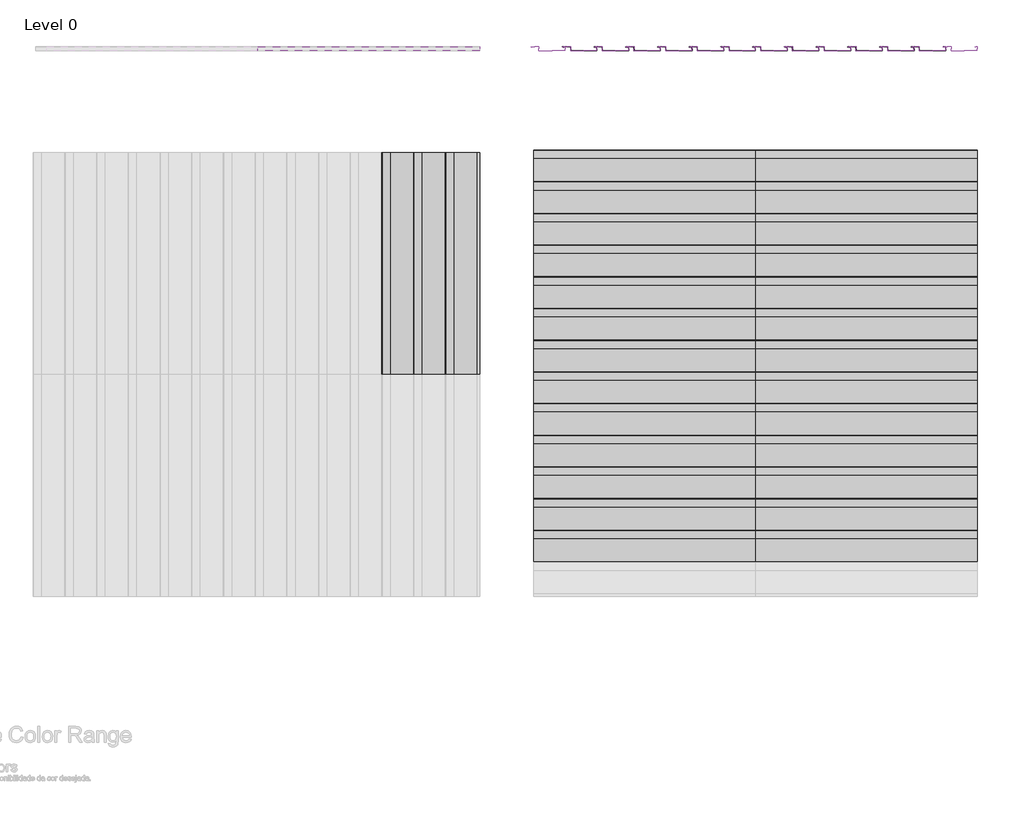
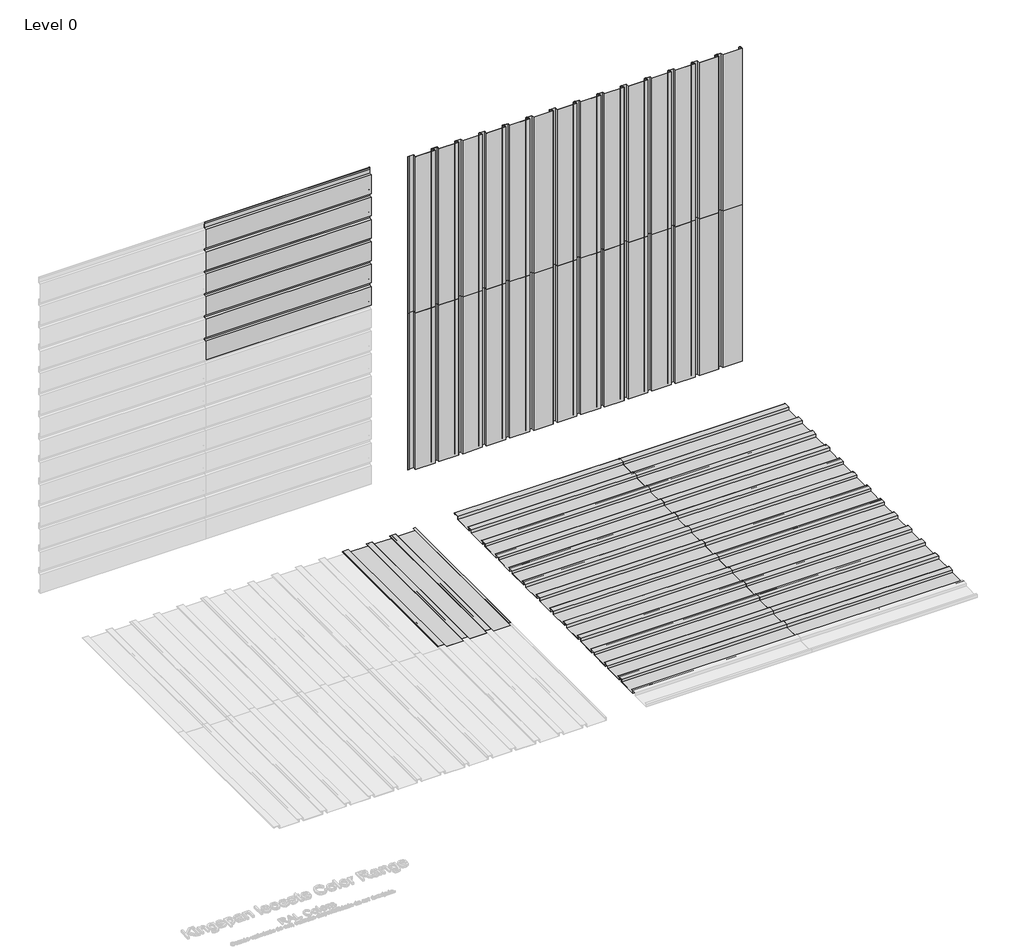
# One storey, part 2 of 2: 63 proxies.
"""IFC4 building model written with IfcOpenShell, lengths in millimetres."""

from ifc_helpers import new_model, si_unit, origin, place, context, project, spatial, transform, mapped, element, save
from components import mx8_0_standard_panel_ns_97240bc2, mx8_0_standard_panel_ns_d4d0994c

model = new_model("IFC4")

# Units and contexts
model_context = context("Model", 3, world=origin())
ifc_project = project(units=[si_unit("LENGTHUNIT", "METRE", prefix="MILLI")], contexts=[model_context])

# Site, building, storey
site = spatial("IfcSite", under=ifc_project)
building = spatial("IfcBuilding", under=site)
storey = spatial("IfcBuildingStorey", under=building, Name="Level 0", Elevation=0.0)

# Proxies
placement = place(None, origin())
mx8_0_standard_panel_ns_shape = mx8_0_standard_panel_ns_97240bc2(model_context)
element("IfcBuildingElementProxy", 1, Name="MX8.0 : Standard Panel_NS", ObjectType="MX8.0 : Standard Panel_NS", at=placement, inside=storey, context=model_context, shape_type="MappedRepresentation", body=[
    mapped(mx8_0_standard_panel_ns_shape, transform((1589.7088666, 5063.0274074, 0.0), x_axis=(0.0, 0.0, 1.0), y_axis=(-1.0, 0.0, 0.0), z_axis=(0.0, -1.0, 0.0))),
])
element("IfcBuildingElementProxy", 2, Name="MX8.0 : Standard Panel_NS", ObjectType="MX8.0 : Standard Panel_NS", at=placement, inside=storey, context=model_context, shape_type="MappedRepresentation", body=[
    mapped(mx8_0_standard_panel_ns_shape, transform((1589.7088666, 5063.0274074, 2100.0), x_axis=(0.0, 0.0, 1.0), y_axis=(-1.0, 0.0, 0.0), z_axis=(0.0, -1.0, 0.0))),
])
element("IfcBuildingElementProxy", 3, Name="MX8.0 : Standard Panel_NS", ObjectType="MX8.0 : Standard Panel_NS", at=placement, inside=storey, context=model_context, shape_type="MappedRepresentation", body=[
    mapped(mx8_0_standard_panel_ns_shape, transform((-1317.7637295, 5063.0274074, 3900.0), x_axis=(1.0, 0.0, 0.0), y_axis=(0.0, 0.0, 1.0), z_axis=(0.0, -1.0, 0.0))),
])
element("IfcBuildingElementProxy", 4, Name="MX8.0 : Standard Panel_NS", ObjectType="MX8.0 : Standard Panel_NS", at=placement, inside=storey, context=model_context, shape_type="MappedRepresentation", body=[
    mapped(mx8_0_standard_panel_ns_shape, transform((3989.7088665, 5063.0274074, 0.0), x_axis=(0.0, 0.0, 1.0), y_axis=(-1.0, 0.0, 0.0), z_axis=(0.0, -1.0, 0.0))),
])
element("IfcBuildingElementProxy", 5, Name="MX8.0 : Standard Panel_NS", ObjectType="MX8.0 : Standard Panel_NS", at=placement, inside=storey, context=model_context, shape_type="MappedRepresentation", body=[
    mapped(mx8_0_standard_panel_ns_shape, transform((3989.7088665, 5063.0274074, 2100.0), x_axis=(0.0, 0.0, 1.0), y_axis=(-1.0, 0.0, 0.0), z_axis=(0.0, -1.0, 0.0))),
])
mx8_0_standard_panel_ns_2_shape = mx8_0_standard_panel_ns_d4d0994c(model_context)
element("IfcBuildingElementProxy", 6, Name="MX8.0 : Standard Panel_NS", ObjectType="MX8.0 : Standard Panel_NS", at=placement, inside=storey, context=model_context, shape_type="MappedRepresentation", body=[
    mapped(mx8_0_standard_panel_ns_2_shape, transform((1289.7088668, 1358.3113453, 0.0), x_axis=(1.0, 0.0, 0.0), y_axis=(0.0, 1.0, 0.0), z_axis=(0.0, 0.0, 1.0))),
])
element("IfcBuildingElementProxy", 7, Name="MX8.0 : Standard Panel_NS", ObjectType="MX8.0 : Standard Panel_NS", at=placement, inside=storey, context=model_context, shape_type="MappedRepresentation", body=[
    mapped(mx8_0_standard_panel_ns_2_shape, transform((1289.7088668, 3758.3113453, 0.0), x_axis=(1.0, 0.0, 0.0), y_axis=(0.0, 1.0, 0.0), z_axis=(0.0, 0.0, 1.0))),
])
element("IfcBuildingElementProxy", 8, Name="MX8.0 : Standard Panel_NS", ObjectType="MX8.0 : Standard Panel_NS", at=placement, inside=storey, context=model_context, shape_type="MappedRepresentation", body=[
    mapped(mx8_0_standard_panel_ns_2_shape, transform((3389.7088668, 1358.3113453, 0.0), x_axis=(1.0, 0.0, 0.0), y_axis=(0.0, 1.0, 0.0), z_axis=(0.0, 0.0, 1.0))),
])
element("IfcBuildingElementProxy", 9, Name="MX8.0 : Standard Panel_NS", ObjectType="MX8.0 : Standard Panel_NS", at=placement, inside=storey, context=model_context, shape_type="MappedRepresentation", body=[
    mapped(mx8_0_standard_panel_ns_2_shape, transform((3389.7088668, 3758.3113453, 0.0), x_axis=(1.0, 0.0, 0.0), y_axis=(0.0, 1.0, 0.0), z_axis=(0.0, 0.0, 1.0))),
])
element("IfcBuildingElementProxy", 10, Name="MX8.0 : Standard Panel_NS", ObjectType="MX8.0 : Standard Panel_NS", at=placement, inside=storey, context=model_context, shape_type="MappedRepresentation", body=[
    mapped(mx8_0_standard_panel_ns_shape, transform((3089.7088665, 5063.0274074, 0.0), x_axis=(0.0, 0.0, 1.0), y_axis=(-1.0, 0.0, 0.0), z_axis=(0.0, -1.0, 0.0))),
])
element("IfcBuildingElementProxy", 11, Name="MX8.0 : Standard Panel_NS", ObjectType="MX8.0 : Standard Panel_NS", at=placement, inside=storey, context=model_context, shape_type="MappedRepresentation", body=[
    mapped(mx8_0_standard_panel_ns_shape, transform((3089.7088665, 5063.0274074, 2100.0), x_axis=(0.0, 0.0, 1.0), y_axis=(-1.0, 0.0, 0.0), z_axis=(0.0, -1.0, 0.0))),
])
element("IfcBuildingElementProxy", 12, Name="MX8.0 : Standard Panel_NS", ObjectType="MX8.0 : Standard Panel_NS", at=placement, inside=storey, context=model_context, shape_type="MappedRepresentation", body=[
    mapped(mx8_0_standard_panel_ns_shape, transform((-1317.7637295, 5063.0274074, 2400.0), x_axis=(1.0, 0.0, 0.0), y_axis=(0.0, 0.0, 1.0), z_axis=(0.0, -1.0, 0.0))),
])
element("IfcBuildingElementProxy", 13, Name="MX8.0 : Standard Panel_NS", ObjectType="MX8.0 : Standard Panel_NS", at=placement, inside=storey, context=model_context, shape_type="MappedRepresentation", body=[
    mapped(mx8_0_standard_panel_ns_shape, transform((5489.7088666, 5063.0274074, 0.0), x_axis=(0.0, 0.0, 1.0), y_axis=(-1.0, 0.0, 0.0), z_axis=(0.0, -1.0, 0.0))),
])
element("IfcBuildingElementProxy", 14, Name="MX8.0 : Standard Panel_NS", ObjectType="MX8.0 : Standard Panel_NS", at=placement, inside=storey, context=model_context, shape_type="MappedRepresentation", body=[
    mapped(mx8_0_standard_panel_ns_shape, transform((5489.7088666, 5063.0274074, 2100.0), x_axis=(0.0, 0.0, 1.0), y_axis=(-1.0, 0.0, 0.0), z_axis=(0.0, -1.0, 0.0))),
])
element("IfcBuildingElementProxy", 15, Name="MX8.0 : Standard Panel_NS", ObjectType="MX8.0 : Standard Panel_NS", at=placement, inside=storey, context=model_context, shape_type="MappedRepresentation", body=[
    mapped(mx8_0_standard_panel_ns_2_shape, transform((1289.7088668, 2258.3113453, 0.0), x_axis=(1.0, 0.0, 0.0), y_axis=(0.0, 1.0, 0.0), z_axis=(0.0, 0.0, 1.0))),
])
element("IfcBuildingElementProxy", 16, Name="MX8.0 : Standard Panel_NS", ObjectType="MX8.0 : Standard Panel_NS", at=placement, inside=storey, context=model_context, shape_type="MappedRepresentation", body=[
    mapped(mx8_0_standard_panel_ns_2_shape, transform((782.2362705, 1958.3113453, 0.0), x_axis=(0.0, 1.0, 0.0), y_axis=(-1.0, 0.0, 0.0), z_axis=(0.0, 0.0, 1.0))),
])
element("IfcBuildingElementProxy", 17, Name="MX8.0 : Standard Panel_NS", ObjectType="MX8.0 : Standard Panel_NS", at=placement, inside=storey, context=model_context, shape_type="MappedRepresentation", body=[
    mapped(mx8_0_standard_panel_ns_2_shape, transform((3389.7088668, 2258.3113453, 0.0), x_axis=(1.0, 0.0, 0.0), y_axis=(0.0, 1.0, 0.0), z_axis=(0.0, 0.0, 1.0))),
])
element("IfcBuildingElementProxy", 18, Name="MX8.0 : Standard Panel_NS", ObjectType="MX8.0 : Standard Panel_NS", at=placement, inside=storey, context=model_context, shape_type="MappedRepresentation", body=[
    mapped(mx8_0_standard_panel_ns_shape, transform((2789.7088665, 5063.0274074, 0.0), x_axis=(0.0, 0.0, 1.0), y_axis=(-1.0, 0.0, 0.0), z_axis=(0.0, -1.0, 0.0))),
])
element("IfcBuildingElementProxy", 19, Name="MX8.0 : Standard Panel_NS", ObjectType="MX8.0 : Standard Panel_NS", at=placement, inside=storey, context=model_context, shape_type="MappedRepresentation", body=[
    mapped(mx8_0_standard_panel_ns_shape, transform((2789.7088665, 5063.0274074, 2100.0), x_axis=(0.0, 0.0, 1.0), y_axis=(-1.0, 0.0, 0.0), z_axis=(0.0, -1.0, 0.0))),
])
element("IfcBuildingElementProxy", 20, Name="MX8.0 : Standard Panel_NS", ObjectType="MX8.0 : Standard Panel_NS", at=placement, inside=storey, context=model_context, shape_type="MappedRepresentation", body=[
    mapped(mx8_0_standard_panel_ns_shape, transform((-1317.7637295, 5063.0274074, 2700.0), x_axis=(1.0, 0.0, 0.0), y_axis=(0.0, 0.0, 1.0), z_axis=(0.0, -1.0, 0.0))),
])
element("IfcBuildingElementProxy", 21, Name="MX8.0 : Standard Panel_NS", ObjectType="MX8.0 : Standard Panel_NS", at=placement, inside=storey, context=model_context, shape_type="MappedRepresentation", body=[
    mapped(mx8_0_standard_panel_ns_shape, transform((5189.7088665, 5063.0274074, 0.0), x_axis=(0.0, 0.0, 1.0), y_axis=(-1.0, 0.0, 0.0), z_axis=(0.0, -1.0, 0.0))),
])
element("IfcBuildingElementProxy", 22, Name="MX8.0 : Standard Panel_NS", ObjectType="MX8.0 : Standard Panel_NS", at=placement, inside=storey, context=model_context, shape_type="MappedRepresentation", body=[
    mapped(mx8_0_standard_panel_ns_shape, transform((5189.7088665, 5063.0274074, 2100.0), x_axis=(0.0, 0.0, 1.0), y_axis=(-1.0, 0.0, 0.0), z_axis=(0.0, -1.0, 0.0))),
])
element("IfcBuildingElementProxy", 23, Name="MX8.0 : Standard Panel_NS", ObjectType="MX8.0 : Standard Panel_NS", at=placement, inside=storey, context=model_context, shape_type="MappedRepresentation", body=[
    mapped(mx8_0_standard_panel_ns_shape, transform((2489.7088665, 5063.0274074, 0.0), x_axis=(0.0, 0.0, 1.0), y_axis=(-1.0, 0.0, 0.0), z_axis=(0.0, -1.0, 0.0))),
])
element("IfcBuildingElementProxy", 24, Name="MX8.0 : Standard Panel_NS", ObjectType="MX8.0 : Standard Panel_NS", at=placement, inside=storey, context=model_context, shape_type="MappedRepresentation", body=[
    mapped(mx8_0_standard_panel_ns_shape, transform((2489.7088665, 5063.0274074, 2100.0), x_axis=(0.0, 0.0, 1.0), y_axis=(-1.0, 0.0, 0.0), z_axis=(0.0, -1.0, 0.0))),
])
element("IfcBuildingElementProxy", 25, Name="MX8.0 : Standard Panel_NS", ObjectType="MX8.0 : Standard Panel_NS", at=placement, inside=storey, context=model_context, shape_type="MappedRepresentation", body=[
    mapped(mx8_0_standard_panel_ns_shape, transform((-1317.7637295, 5063.0274074, 3000.0), x_axis=(1.0, 0.0, 0.0), y_axis=(0.0, 0.0, 1.0), z_axis=(0.0, -1.0, 0.0))),
])
element("IfcBuildingElementProxy", 26, Name="MX8.0 : Standard Panel_NS", ObjectType="MX8.0 : Standard Panel_NS", at=placement, inside=storey, context=model_context, shape_type="MappedRepresentation", body=[
    mapped(mx8_0_standard_panel_ns_shape, transform((4889.7088665, 5063.0274074, 0.0), x_axis=(0.0, 0.0, 1.0), y_axis=(-1.0, 0.0, 0.0), z_axis=(0.0, -1.0, 0.0))),
])
element("IfcBuildingElementProxy", 27, Name="MX8.0 : Standard Panel_NS", ObjectType="MX8.0 : Standard Panel_NS", at=placement, inside=storey, context=model_context, shape_type="MappedRepresentation", body=[
    mapped(mx8_0_standard_panel_ns_shape, transform((4889.7088665, 5063.0274074, 2100.0), x_axis=(0.0, 0.0, 1.0), y_axis=(-1.0, 0.0, 0.0), z_axis=(0.0, -1.0, 0.0))),
])
element("IfcBuildingElementProxy", 28, Name="MX8.0 : Standard Panel_NS", ObjectType="MX8.0 : Standard Panel_NS", at=placement, inside=storey, context=model_context, shape_type="MappedRepresentation", body=[
    mapped(mx8_0_standard_panel_ns_shape, transform((2189.7088665, 5063.0274074, 0.0), x_axis=(0.0, 0.0, 1.0), y_axis=(-1.0, 0.0, 0.0), z_axis=(0.0, -1.0, 0.0))),
])
element("IfcBuildingElementProxy", 29, Name="MX8.0 : Standard Panel_NS", ObjectType="MX8.0 : Standard Panel_NS", at=placement, inside=storey, context=model_context, shape_type="MappedRepresentation", body=[
    mapped(mx8_0_standard_panel_ns_shape, transform((2189.7088665, 5063.0274074, 2100.0), x_axis=(0.0, 0.0, 1.0), y_axis=(-1.0, 0.0, 0.0), z_axis=(0.0, -1.0, 0.0))),
])
element("IfcBuildingElementProxy", 30, Name="MX8.0 : Standard Panel_NS", ObjectType="MX8.0 : Standard Panel_NS", at=placement, inside=storey, context=model_context, shape_type="MappedRepresentation", body=[
    mapped(mx8_0_standard_panel_ns_shape, transform((-1317.7637295, 5063.0274074, 3300.0), x_axis=(1.0, 0.0, 0.0), y_axis=(0.0, 0.0, 1.0), z_axis=(0.0, -1.0, 0.0))),
])
element("IfcBuildingElementProxy", 31, Name="MX8.0 : Standard Panel_NS", ObjectType="MX8.0 : Standard Panel_NS", at=placement, inside=storey, context=model_context, shape_type="MappedRepresentation", body=[
    mapped(mx8_0_standard_panel_ns_shape, transform((4589.7088665, 5063.0274074, 0.0), x_axis=(0.0, 0.0, 1.0), y_axis=(-1.0, 0.0, 0.0), z_axis=(0.0, -1.0, 0.0))),
])
element("IfcBuildingElementProxy", 32, Name="MX8.0 : Standard Panel_NS", ObjectType="MX8.0 : Standard Panel_NS", at=placement, inside=storey, context=model_context, shape_type="MappedRepresentation", body=[
    mapped(mx8_0_standard_panel_ns_shape, transform((4589.7088665, 5063.0274074, 2100.0), x_axis=(0.0, 0.0, 1.0), y_axis=(-1.0, 0.0, 0.0), z_axis=(0.0, -1.0, 0.0))),
])
element("IfcBuildingElementProxy", 33, Name="MX8.0 : Standard Panel_NS", ObjectType="MX8.0 : Standard Panel_NS", at=placement, inside=storey, context=model_context, shape_type="MappedRepresentation", body=[
    mapped(mx8_0_standard_panel_ns_shape, transform((1889.7088665, 5063.0274074, 0.0), x_axis=(0.0, 0.0, 1.0), y_axis=(-1.0, 0.0, 0.0), z_axis=(0.0, -1.0, 0.0))),
])
element("IfcBuildingElementProxy", 34, Name="MX8.0 : Standard Panel_NS", ObjectType="MX8.0 : Standard Panel_NS", at=placement, inside=storey, context=model_context, shape_type="MappedRepresentation", body=[
    mapped(mx8_0_standard_panel_ns_shape, transform((1889.7088665, 5063.0274074, 2100.0), x_axis=(0.0, 0.0, 1.0), y_axis=(-1.0, 0.0, 0.0), z_axis=(0.0, -1.0, 0.0))),
])
element("IfcBuildingElementProxy", 35, Name="MX8.0 : Standard Panel_NS", ObjectType="MX8.0 : Standard Panel_NS", at=placement, inside=storey, context=model_context, shape_type="MappedRepresentation", body=[
    mapped(mx8_0_standard_panel_ns_shape, transform((-1317.7637295, 5063.0274074, 3600.0), x_axis=(1.0, 0.0, 0.0), y_axis=(0.0, 0.0, 1.0), z_axis=(0.0, -1.0, 0.0))),
])
element("IfcBuildingElementProxy", 36, Name="MX8.0 : Standard Panel_NS", ObjectType="MX8.0 : Standard Panel_NS", at=placement, inside=storey, context=model_context, shape_type="MappedRepresentation", body=[
    mapped(mx8_0_standard_panel_ns_shape, transform((4289.7088665, 5063.0274074, 0.0), x_axis=(0.0, 0.0, 1.0), y_axis=(-1.0, 0.0, 0.0), z_axis=(0.0, -1.0, 0.0))),
])
element("IfcBuildingElementProxy", 37, Name="MX8.0 : Standard Panel_NS", ObjectType="MX8.0 : Standard Panel_NS", at=placement, inside=storey, context=model_context, shape_type="MappedRepresentation", body=[
    mapped(mx8_0_standard_panel_ns_shape, transform((4289.7088665, 5063.0274074, 2100.0), x_axis=(0.0, 0.0, 1.0), y_axis=(-1.0, 0.0, 0.0), z_axis=(0.0, -1.0, 0.0))),
])
element("IfcBuildingElementProxy", 38, Name="MX8.0 : Standard Panel_NS", ObjectType="MX8.0 : Standard Panel_NS", at=placement, inside=storey, context=model_context, shape_type="MappedRepresentation", body=[
    mapped(mx8_0_standard_panel_ns_shape, transform((3689.7088665, 5063.0274074, 0.0), x_axis=(0.0, 0.0, 1.0), y_axis=(-1.0, 0.0, 0.0), z_axis=(0.0, -1.0, 0.0))),
])
element("IfcBuildingElementProxy", 39, Name="MX8.0 : Standard Panel_NS", ObjectType="MX8.0 : Standard Panel_NS", at=placement, inside=storey, context=model_context, shape_type="MappedRepresentation", body=[
    mapped(mx8_0_standard_panel_ns_shape, transform((3689.7088665, 5063.0274074, 2100.0), x_axis=(0.0, 0.0, 1.0), y_axis=(-1.0, 0.0, 0.0), z_axis=(0.0, -1.0, 0.0))),
])
element("IfcBuildingElementProxy", 40, Name="MX8.0 : Standard Panel_NS", ObjectType="MX8.0 : Standard Panel_NS", at=placement, inside=storey, context=model_context, shape_type="MappedRepresentation", body=[
    mapped(mx8_0_standard_panel_ns_shape, transform((3389.7088665, 5063.0274074, 0.0), x_axis=(0.0, 0.0, 1.0), y_axis=(-1.0, 0.0, 0.0), z_axis=(0.0, -1.0, 0.0))),
])
element("IfcBuildingElementProxy", 41, Name="MX8.0 : Standard Panel_NS", ObjectType="MX8.0 : Standard Panel_NS", at=placement, inside=storey, context=model_context, shape_type="MappedRepresentation", body=[
    mapped(mx8_0_standard_panel_ns_shape, transform((3389.7088665, 5063.0274074, 2100.0), x_axis=(0.0, 0.0, 1.0), y_axis=(-1.0, 0.0, 0.0), z_axis=(0.0, -1.0, 0.0))),
])
element("IfcBuildingElementProxy", 42, Name="MX8.0 : Standard Panel_NS", ObjectType="MX8.0 : Standard Panel_NS", at=placement, inside=storey, context=model_context, shape_type="MappedRepresentation", body=[
    mapped(mx8_0_standard_panel_ns_2_shape, transform((1289.7088668, 158.3113453, 0.0), x_axis=(1.0, 0.0, 0.0), y_axis=(0.0, 1.0, 0.0), z_axis=(0.0, 0.0, 1.0))),
])
element("IfcBuildingElementProxy", 43, Name="MX8.0 : Standard Panel_NS", ObjectType="MX8.0 : Standard Panel_NS", at=placement, inside=storey, context=model_context, shape_type="MappedRepresentation", body=[
    mapped(mx8_0_standard_panel_ns_2_shape, transform((1289.7088668, 2558.3113453, 0.0), x_axis=(1.0, 0.0, 0.0), y_axis=(0.0, 1.0, 0.0), z_axis=(0.0, 0.0, 1.0))),
])
element("IfcBuildingElementProxy", 44, Name="MX8.0 : Standard Panel_NS", ObjectType="MX8.0 : Standard Panel_NS", at=placement, inside=storey, context=model_context, shape_type="MappedRepresentation", body=[
    mapped(mx8_0_standard_panel_ns_2_shape, transform((482.2362703, 1958.3113453, 0.0), x_axis=(0.0, 1.0, 0.0), y_axis=(-1.0, 0.0, 0.0), z_axis=(0.0, 0.0, 1.0))),
])
element("IfcBuildingElementProxy", 45, Name="MX8.0 : Standard Panel_NS", ObjectType="MX8.0 : Standard Panel_NS", at=placement, inside=storey, context=model_context, shape_type="MappedRepresentation", body=[
    mapped(mx8_0_standard_panel_ns_2_shape, transform((3389.7088668, 158.3113453, 0.0), x_axis=(1.0, 0.0, 0.0), y_axis=(0.0, 1.0, 0.0), z_axis=(0.0, 0.0, 1.0))),
])
element("IfcBuildingElementProxy", 46, Name="MX8.0 : Standard Panel_NS", ObjectType="MX8.0 : Standard Panel_NS", at=placement, inside=storey, context=model_context, shape_type="MappedRepresentation", body=[
    mapped(mx8_0_standard_panel_ns_2_shape, transform((3389.7088668, 2558.3113453, 0.0), x_axis=(1.0, 0.0, 0.0), y_axis=(0.0, 1.0, 0.0), z_axis=(0.0, 0.0, 1.0))),
])
element("IfcBuildingElementProxy", 47, Name="MX8.0 : Standard Panel_NS", ObjectType="MX8.0 : Standard Panel_NS", at=placement, inside=storey, context=model_context, shape_type="MappedRepresentation", body=[
    mapped(mx8_0_standard_panel_ns_2_shape, transform((1289.7088668, 458.3113453, 0.0), x_axis=(1.0, 0.0, 0.0), y_axis=(0.0, 1.0, 0.0), z_axis=(0.0, 0.0, 1.0))),
])
element("IfcBuildingElementProxy", 48, Name="MX8.0 : Standard Panel_NS", ObjectType="MX8.0 : Standard Panel_NS", at=placement, inside=storey, context=model_context, shape_type="MappedRepresentation", body=[
    mapped(mx8_0_standard_panel_ns_2_shape, transform((1289.7088668, 2858.3113453, 0.0), x_axis=(1.0, 0.0, 0.0), y_axis=(0.0, 1.0, 0.0), z_axis=(0.0, 0.0, 1.0))),
])
element("IfcBuildingElementProxy", 49, Name="MX8.0 : Standard Panel_NS", ObjectType="MX8.0 : Standard Panel_NS", at=placement, inside=storey, context=model_context, shape_type="MappedRepresentation", body=[
    mapped(mx8_0_standard_panel_ns_2_shape, transform((182.2362703, 1958.3113453, 0.0), x_axis=(0.0, 1.0, 0.0), y_axis=(-1.0, 0.0, 0.0), z_axis=(0.0, 0.0, 1.0))),
])
element("IfcBuildingElementProxy", 50, Name="MX8.0 : Standard Panel_NS", ObjectType="MX8.0 : Standard Panel_NS", at=placement, inside=storey, context=model_context, shape_type="MappedRepresentation", body=[
    mapped(mx8_0_standard_panel_ns_2_shape, transform((3389.7088668, 458.3113453, 0.0), x_axis=(1.0, 0.0, 0.0), y_axis=(0.0, 1.0, 0.0), z_axis=(0.0, 0.0, 1.0))),
])
element("IfcBuildingElementProxy", 51, Name="MX8.0 : Standard Panel_NS", ObjectType="MX8.0 : Standard Panel_NS", at=placement, inside=storey, context=model_context, shape_type="MappedRepresentation", body=[
    mapped(mx8_0_standard_panel_ns_2_shape, transform((3389.7088668, 2858.3113453, 0.0), x_axis=(1.0, 0.0, 0.0), y_axis=(0.0, 1.0, 0.0), z_axis=(0.0, 0.0, 1.0))),
])
element("IfcBuildingElementProxy", 52, Name="MX8.0 : Standard Panel_NS", ObjectType="MX8.0 : Standard Panel_NS", at=placement, inside=storey, context=model_context, shape_type="MappedRepresentation", body=[
    mapped(mx8_0_standard_panel_ns_2_shape, transform((1289.7088668, 758.3113453, 0.0), x_axis=(1.0, 0.0, 0.0), y_axis=(0.0, 1.0, 0.0), z_axis=(0.0, 0.0, 1.0))),
])
element("IfcBuildingElementProxy", 53, Name="MX8.0 : Standard Panel_NS", ObjectType="MX8.0 : Standard Panel_NS", at=placement, inside=storey, context=model_context, shape_type="MappedRepresentation", body=[
    mapped(mx8_0_standard_panel_ns_2_shape, transform((1289.7088668, 3158.3113453, 0.0), x_axis=(1.0, 0.0, 0.0), y_axis=(0.0, 1.0, 0.0), z_axis=(0.0, 0.0, 1.0))),
])
element("IfcBuildingElementProxy", 54, Name="MX8.0 : Standard Panel_NS", ObjectType="MX8.0 : Standard Panel_NS", at=placement, inside=storey, context=model_context, shape_type="MappedRepresentation", body=[
    mapped(mx8_0_standard_panel_ns_2_shape, transform((3389.7088668, 758.3113453, 0.0), x_axis=(1.0, 0.0, 0.0), y_axis=(0.0, 1.0, 0.0), z_axis=(0.0, 0.0, 1.0))),
])
element("IfcBuildingElementProxy", 55, Name="MX8.0 : Standard Panel_NS", ObjectType="MX8.0 : Standard Panel_NS", at=placement, inside=storey, context=model_context, shape_type="MappedRepresentation", body=[
    mapped(mx8_0_standard_panel_ns_2_shape, transform((3389.7088668, 3158.3113453, 0.0), x_axis=(1.0, 0.0, 0.0), y_axis=(0.0, 1.0, 0.0), z_axis=(0.0, 0.0, 1.0))),
])
element("IfcBuildingElementProxy", 56, Name="MX8.0 : Standard Panel_NS", ObjectType="MX8.0 : Standard Panel_NS", at=placement, inside=storey, context=model_context, shape_type="MappedRepresentation", body=[
    mapped(mx8_0_standard_panel_ns_2_shape, transform((1289.7088668, 1058.3113453, 0.0), x_axis=(1.0, 0.0, 0.0), y_axis=(0.0, 1.0, 0.0), z_axis=(0.0, 0.0, 1.0))),
])
element("IfcBuildingElementProxy", 57, Name="MX8.0 : Standard Panel_NS", ObjectType="MX8.0 : Standard Panel_NS", at=placement, inside=storey, context=model_context, shape_type="MappedRepresentation", body=[
    mapped(mx8_0_standard_panel_ns_2_shape, transform((1289.7088668, 3458.3113453, 0.0), x_axis=(1.0, 0.0, 0.0), y_axis=(0.0, 1.0, 0.0), z_axis=(0.0, 0.0, 1.0))),
])
element("IfcBuildingElementProxy", 58, Name="MX8.0 : Standard Panel_NS", ObjectType="MX8.0 : Standard Panel_NS", at=placement, inside=storey, context=model_context, shape_type="MappedRepresentation", body=[
    mapped(mx8_0_standard_panel_ns_2_shape, transform((3389.7088668, 1058.3113453, 0.0), x_axis=(1.0, 0.0, 0.0), y_axis=(0.0, 1.0, 0.0), z_axis=(0.0, 0.0, 1.0))),
])
element("IfcBuildingElementProxy", 59, Name="MX8.0 : Standard Panel_NS", ObjectType="MX8.0 : Standard Panel_NS", at=placement, inside=storey, context=model_context, shape_type="MappedRepresentation", body=[
    mapped(mx8_0_standard_panel_ns_2_shape, transform((3389.7088668, 3458.3113453, 0.0), x_axis=(1.0, 0.0, 0.0), y_axis=(0.0, 1.0, 0.0), z_axis=(0.0, 0.0, 1.0))),
])
element("IfcBuildingElementProxy", 60, Name="MX8.0 : Standard Panel_NS", ObjectType="MX8.0 : Standard Panel_NS", at=placement, inside=storey, context=model_context, shape_type="MappedRepresentation", body=[
    mapped(mx8_0_standard_panel_ns_2_shape, transform((1289.7088668, 1658.3113453, 0.0), x_axis=(1.0, 0.0, 0.0), y_axis=(0.0, 1.0, 0.0), z_axis=(0.0, 0.0, 1.0))),
])
element("IfcBuildingElementProxy", 61, Name="MX8.0 : Standard Panel_NS", ObjectType="MX8.0 : Standard Panel_NS", at=placement, inside=storey, context=model_context, shape_type="MappedRepresentation", body=[
    mapped(mx8_0_standard_panel_ns_2_shape, transform((3389.7088668, 1658.3113453, 0.0), x_axis=(1.0, 0.0, 0.0), y_axis=(0.0, 1.0, 0.0), z_axis=(0.0, 0.0, 1.0))),
])
element("IfcBuildingElementProxy", 62, Name="MX8.0 : Standard Panel_NS", ObjectType="MX8.0 : Standard Panel_NS", at=placement, inside=storey, context=model_context, shape_type="MappedRepresentation", body=[
    mapped(mx8_0_standard_panel_ns_2_shape, transform((1289.7088668, 1958.3113453, 0.0), x_axis=(1.0, 0.0, 0.0), y_axis=(0.0, 1.0, 0.0), z_axis=(0.0, 0.0, 1.0))),
])
element("IfcBuildingElementProxy", 63, Name="MX8.0 : Standard Panel_NS", ObjectType="MX8.0 : Standard Panel_NS", at=placement, inside=storey, context=model_context, shape_type="MappedRepresentation", body=[
    mapped(mx8_0_standard_panel_ns_2_shape, transform((3389.7088668, 1958.3113453, 0.0), x_axis=(1.0, 0.0, 0.0), y_axis=(0.0, 1.0, 0.0), z_axis=(0.0, 0.0, 1.0))),
])

save(model, "model.ifc")
